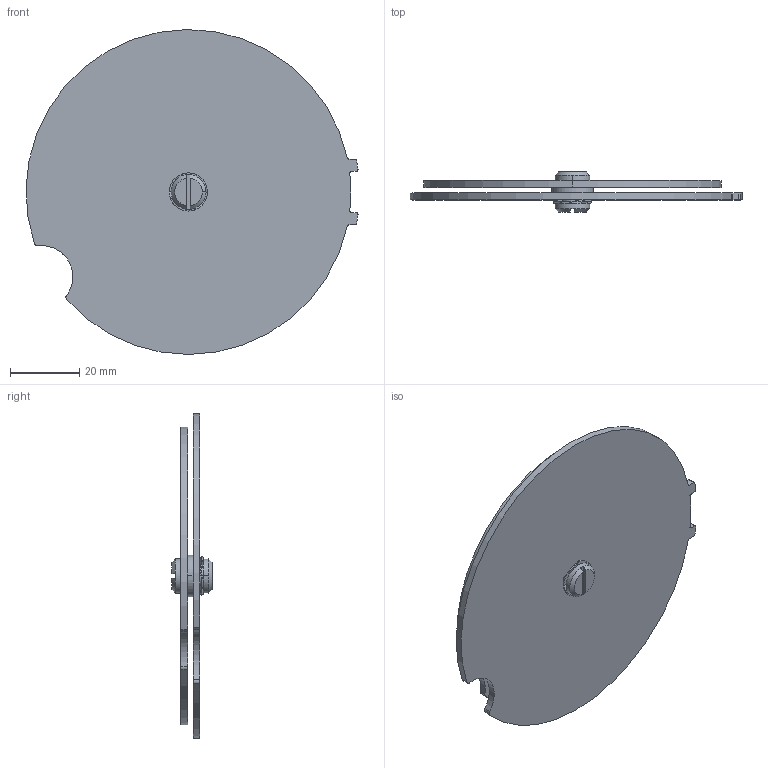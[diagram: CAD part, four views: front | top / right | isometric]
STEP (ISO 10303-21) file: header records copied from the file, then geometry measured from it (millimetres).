
FILE_DESCRIPTION (( 'STEP AP214' ), '1' );
FILE_NAME ('Rotatable filter-assem.STEP', '2025-09-25T06:33:45', ( '' ), ( '' ), 'SwSTEP 2.0', 'SolidWorks 2016', '' );
FILE_SCHEMA (( 'AUTOMOTIVE_DESIGN' ));
Length unit declared in the file: millimetre
Products named in the file (7): 17045-brass screw; 38184-Rotatable filter-base; 17041-brass screw-male; Rotatable filter-assem; 17040-flat washer; 38185-Rotatable filter-top; 17030-Saddle washer
Assembly tree (6 placements, depth 2):
  Rotatable filter-assem
    38184-Rotatable filter-base
    17030-Saddle washer
    17045-brass screw
    17040-flat washer
    17041-brass screw-male
    38185-Rotatable filter-top
Bounding box: 96.06 x 11.6 x 94 mm (x, y, z)
Volume: 25850.9 mm3; surface area: 27488.1 mm2
Topology: 6 solids, 6 shells, 104 faces, 255 edges, 164 vertices
Faces by surface type: cylinder 61, plane 33, cone 10
Entity records: 3555 total; most frequent: CARTESIAN_POINT 784, DIRECTION 545, ORIENTED_EDGE 510, EDGE_CURVE 255, AXIS2_PLACEMENT_3D 229, VERTEX_POINT 164, CIRCLE 116, EDGE_LOOP 113
